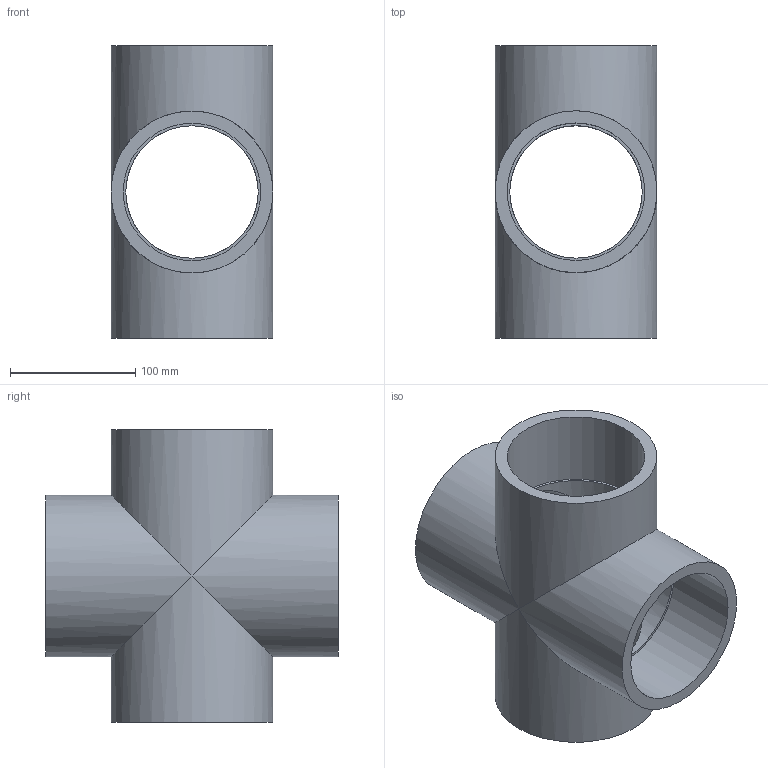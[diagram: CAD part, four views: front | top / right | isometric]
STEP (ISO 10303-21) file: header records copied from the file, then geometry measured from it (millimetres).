
FILE_DESCRIPTION(/* description */ ('Croci a 90° PVC'),/* implementation_level */ '2;1');
FILE_NAME(/* name */ 'C:\Users\POLYPIPE\Desktop\DATASET INVENTOR\LIBRERIA EFFAST\RACCORDI 3DxWEB\RDR\3D_RDRCRD\3D_RDRCRD1100.stp',/* time_stamp */ '2018-01-19T14:18:15+01:00',/* author */ ('POLYPIPE'),/* organization */ ('Polypipe Italia s.r.l.'),/* preprocessor_version */ 'ST-DEVELOPER v16.1',/* originating_system */ 'Autodesk Inventor 2016',/* authorisation */ '');
FILE_SCHEMA (('CONFIG_CONTROL_DESIGN'));
Length unit declared in the file: millimetre
Products named in the file (1): 3D_RDRCRD
Bounding box: 129.5 x 234 x 234 mm (x, y, z)
Volume: 1214809.1 mm3; surface area: 254675.1 mm2
Topology: 1 solids, 1 shells, 20 faces, 36 edges, 20 vertices
Faces by surface type: cylinder 12, plane 8
Full cylindrical faces by diameter (mm): 106 x4, 110 x4, 129.5 x4
Entity records: 464 total; most frequent: DIRECTION 90, CARTESIAN_POINT 65, ORIENTED_EDGE 48, AXIS2_PLACEMENT_3D 45, EDGE_LOOP 40, EDGE_CURVE 24, FACE_BOUND 20, FACE_OUTER_BOUND 20
